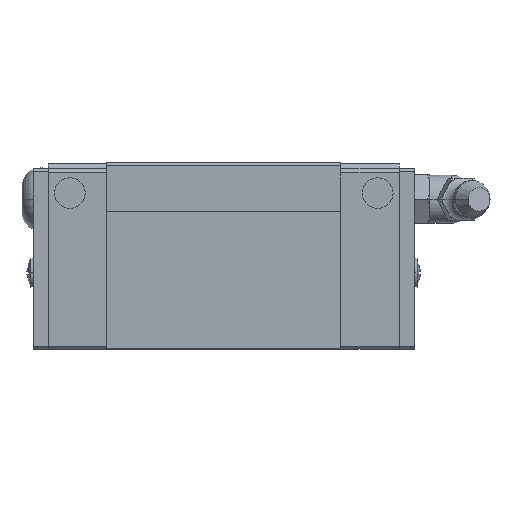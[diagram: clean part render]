
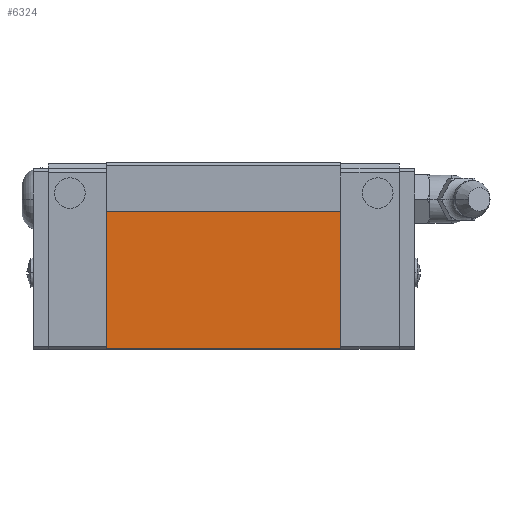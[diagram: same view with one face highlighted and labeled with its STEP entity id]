
A CAD part, left-side view. The second image highlights one B-rep face of the part: STEP entity #6324.
In plain terms, the highlighted planar face has unit normal (-1, 0, 0).
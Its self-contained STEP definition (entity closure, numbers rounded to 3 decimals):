
#2660=EDGE_CURVE('',#3958,#3520,#7523,.T.);
#3520=VERTEX_POINT('',#8461);
#3656=VERTEX_POINT('',#8605);
#3958=VERTEX_POINT('',#8946);
#5126=EDGE_CURVE('',#3656,#5256,#10233,.T.);
#5256=VERTEX_POINT('',#10368);
#5988=EDGE_CURVE('',#3520,#5256,#11166,.T.);
#6204=EDGE_CURVE('',#3656,#3958,#11406,.T.);
#6324=ADVANCED_FACE('',(#11536),#11537,.T.);
#7523=LINE('',#13006,#13007);
#8461=CARTESIAN_POINT('',(-23.6,50.2,5.65));
#8605=CARTESIAN_POINT('',(-23.6,12.0,28.0));
#8946=CARTESIAN_POINT('',(-23.6,12.0,5.65));
#10233=LINE('',#17799,#17800);
#10368=CARTESIAN_POINT('',(-23.6,50.2,28.0));
#11166=LINE('',#19472,#19473);
#11406=LINE('',#19846,#19847);
#11536=FACE_OUTER_BOUND('',#20042,.T.);
#11537=PLANE('',#20043);
#13006=CARTESIAN_POINT('',(-23.6,40.65,5.65));
#13007=VECTOR('',#22086,1.0);
#17799=CARTESIAN_POINT('',(-23.6,31.1,28.0));
#17800=VECTOR('',#24947,1.0);
#19472=CARTESIAN_POINT('',(-23.6,50.2,15.375));
#19473=VECTOR('',#25846,1.0);
#19846=CARTESIAN_POINT('',(-23.6,12.0,15.375));
#19847=VECTOR('',#26132,1.0);
#20042=EDGE_LOOP('',(#26240,#26241,#26242,#26243));
#20043=AXIS2_PLACEMENT_3D('',#26244,#26245,#26246);
#22086=DIRECTION('',(0.0,1.0,-0.0));
#24947=DIRECTION('',(0.0,1.0,0.0));
#25846=DIRECTION('',(0.0,0.0,1.0));
#26132=DIRECTION('',(-0.0,-0.0,-1.0));
#26240=ORIENTED_EDGE('',*,*,#5988,.F.);
#26241=ORIENTED_EDGE('',*,*,#2660,.F.);
#26242=ORIENTED_EDGE('',*,*,#6204,.F.);
#26243=ORIENTED_EDGE('',*,*,#5126,.T.);
#26244=CARTESIAN_POINT('',(-23.6,31.1,10.0));
#26245=DIRECTION('',(-1.0,0.0,0.0));
#26246=DIRECTION('',(0.0,0.0,1.0));
